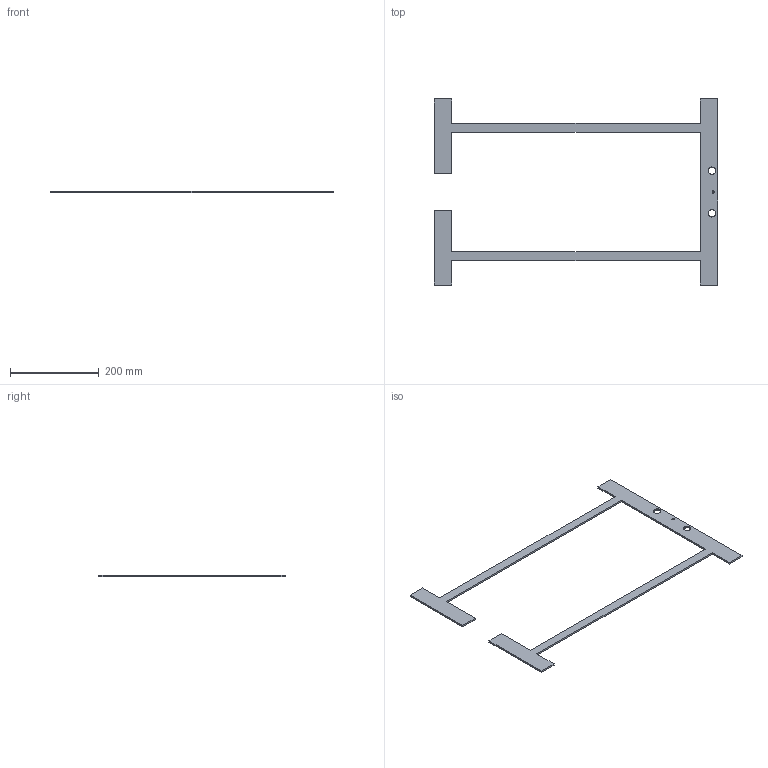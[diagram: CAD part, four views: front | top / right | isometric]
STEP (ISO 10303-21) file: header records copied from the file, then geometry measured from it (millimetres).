
FILE_DESCRIPTION(('Open CASCADE Model'),'2;1');
FILE_NAME('Open CASCADE Shape Model','2026-09-16T16:54:27',('Author'),( 'Open CASCADE'),'Open CASCADE STEP processor 7.8','Open CASCADE 7.8' ,'Unknown');
FILE_SCHEMA(('AUTOMOTIVE_DESIGN { 1 0 10303 214 1 1 1 1 }'));
Length unit declared in the file: millimetre
Products named in the file (1): Open CASCADE STEP translator 7.8 4
Bounding box: 640 x 420 x 4 mm (x, y, z)
Volume: 208659.2 mm3; surface area: 120470.2 mm2
Topology: 1 solids, 1 shells, 28 faces, 75 edges, 49 vertices
Faces by surface type: plane 22, cylinder 6
Full cylindrical faces by diameter (mm): 5.2 x2, 17 x4
Entity records: 1835 total; most frequent: CARTESIAN_POINT 356, DIRECTION 254, LINE 175, VECTOR 175, ORIENTED_EDGE 150, PCURVE 150, DEFINITIONAL_REPRESENTATION 150, EDGE_CURVE 75
